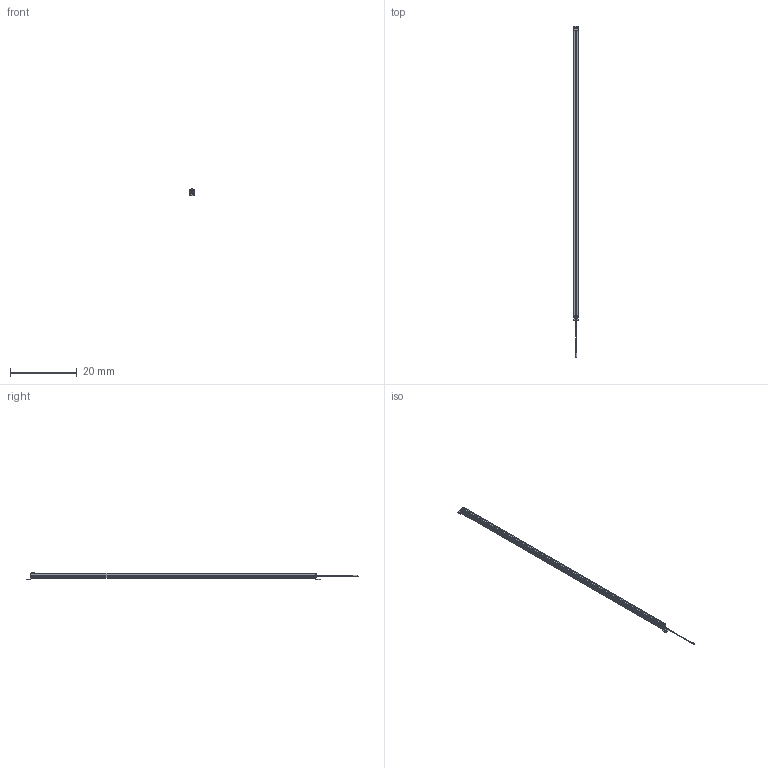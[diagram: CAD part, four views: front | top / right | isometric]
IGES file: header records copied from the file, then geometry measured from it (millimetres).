
Start section:  Autodesk DirectConnect version 7.0.27.0 ---- IGES version 5.3
Global section: file name: C:\ACADFILES\SS_PYLONS\CUSTOMER_FILES\SS-84-PYLON_3D_L.iges; native system: Autodesk DirectConnect 7.0.27.0; preprocessor: 7.0.27.0; author: ENGINEERMAIN; organization: Unknown; date: 20150810.130413; units: millimetre
Bounding box: 1.46 x 99.52 x 2.11 mm (x, y, z)
Surface area: 1252.7 mm2 (no closed solid volume)
Topology: 0 solids, 0 shells, 475 faces, 2604 edges, 2623 vertices
Faces by surface type: bspline 475
